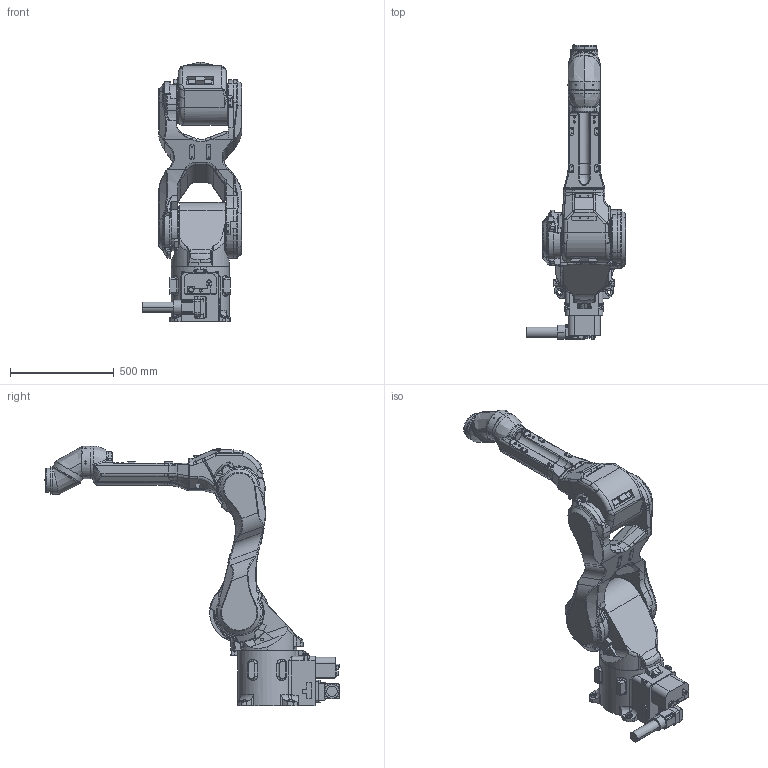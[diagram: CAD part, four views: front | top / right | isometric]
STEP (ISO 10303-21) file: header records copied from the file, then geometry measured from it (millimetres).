
FILE_DESCRIPTION(('CATIA V5 STEP'),'2;1');
FILE_NAME('D:\モデリング\☆☆☆STEP\KJ\KJ155\KJ155J RARAS_190628\MODEL\STEP\KJ155-A001.stp','2019-08-07T02:02:48+00:00',('KHI'),('KHI'),'CATIA Version 5-6 Release 2016 SP4 HF10','CATIA V5 STEP AP203','none');
FILE_SCHEMA(('CONFIG_CONTROL_DESIGN'));
Products named in the file (1): KJ155-A001
Assembly tree (7 placements, depth 2):
  KJ155-A001
    #57
    #15112
    #22945
    #46886
    #73312
    #77548
    #79567
Bounding box: 479.5 x 1425.48 x 1253 mm (x, y, z)
Volume: 98134497.4 mm3; surface area: 2969693.5 mm2
Topology: 8 solids, 11 shells, 1767 faces, 4583 edges, 2833 vertices
Faces by surface type: plane 617, cylinder 598, bspline 355, cone 93, torus 72, sphere 21, revolution 6, extrusion 5
Entity records: 81102 total; most frequent: CARTESIAN_POINT 43538, ORIENTED_EDGE 8962, DIRECTION 5376, EDGE_CURVE 4481, VERTEX_POINT 2833, AXIS2_PLACEMENT_3D 2289, VECTOR 1944, LINE 1939
